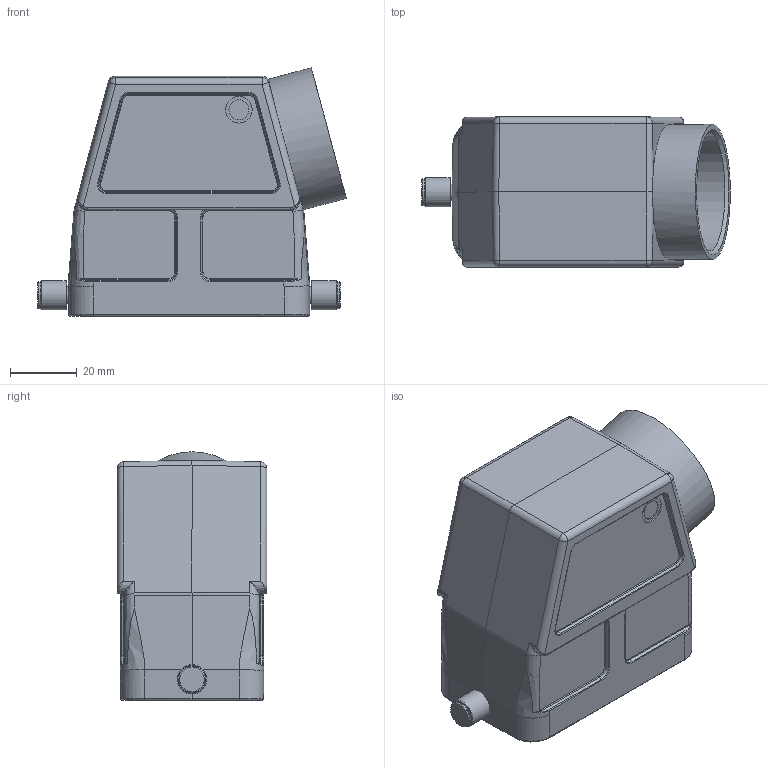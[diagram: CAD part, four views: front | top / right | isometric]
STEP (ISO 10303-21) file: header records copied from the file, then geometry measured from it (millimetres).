
FILE_DESCRIPTION(/* description */ (''),/* implementation_level */ '2;1');
FILE_NAME(/* name */ '100719380ugm000_a.stp',/* time_stamp */ '2017-03-23T10:45:16+01:00',/* author */ (''),/* organization */ (''),/* preprocessor_version */ 'ST-DEVELOPER v16',/* originating_system */ 'SIEMENS PLM Software NX 10.0',/* authorisation */ '');
FILE_SCHEMA (('AUTOMOTIVE_DESIGN { 1 0 10303 214 3 1 1 1 }'));
Length unit declared in the file: millimetre
Products named in the file (1): 100719380ugm000_a
Bounding box: 92.66 x 45 x 74.61 mm (x, y, z)
Volume: 62267.6 mm3; surface area: 36358.2 mm2
Topology: 1 solids, 1 shells, 495 faces, 1215 edges, 737 vertices
Faces by surface type: plane 176, cylinder 140, bspline 74, torus 52, cone 45, sphere 8
Full cylindrical faces by diameter (mm): 2.05 x2, 2.95 x2, 3 x4, 3.1 x2, 4 x2, 4.97 x2, 5.1 x2, 6 x1, 8 x3, 8.8 x2, 32 x1, 35.6 x1, 40.6 x1
Entity records: 17348 total; most frequent: CARTESIAN_POINT 5415, ORIENTED_EDGE 2262, DIRECTION 2202, EDGE_CURVE 1131, AXIS2_PLACEMENT_3D 839, VERTEX_POINT 720, EDGE_LOOP 577, LINE 524
